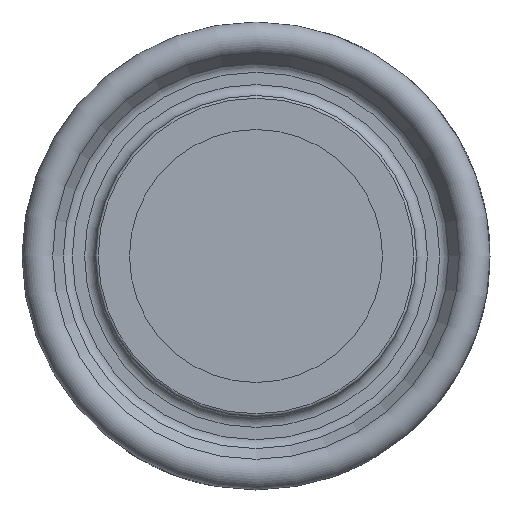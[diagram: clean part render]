
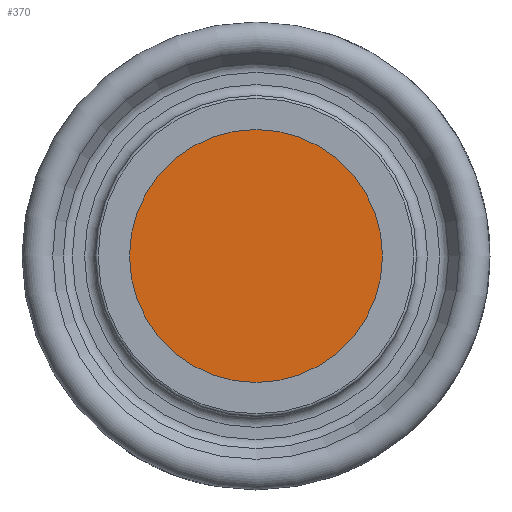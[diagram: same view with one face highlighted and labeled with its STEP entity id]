
A CAD part, left-side view. The second image highlights one B-rep face of the part: STEP entity #370.
In plain terms, the highlighted planar face has unit normal (-1, 0, 0).
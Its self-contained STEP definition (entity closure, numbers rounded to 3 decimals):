
#370 = ADVANCED_FACE( '', ( #891 ), #892, .F. );
#891 = FACE_OUTER_BOUND( '', #2316, .T. );
#892 = PLANE( '', #2317 );
#2316 = EDGE_LOOP( '', ( #4164 ) );
#2317 = AXIS2_PLACEMENT_3D( '', #4165, #4166, #4167 );
#4164 = ORIENTED_EDGE( '', *, *, #5652, .T. );
#4165 = CARTESIAN_POINT( '', ( 0., 0., 0. ) );
#4166 = DIRECTION( '', ( 1., 0., 0. ) );
#4167 = DIRECTION( '', ( 0., 0., -1. ) );
#5652 = EDGE_CURVE( '', #6550, #6550, #6551, .T. );
#6550 = VERTEX_POINT( '', #8085 );
#6551 = CIRCLE( '', #8086, 5.906 );
#8085 = CARTESIAN_POINT( '', ( 0., 0., 5.906 ) );
#8086 = AXIS2_PLACEMENT_3D( '', #9616, #9617, #9618 );
#9616 = CARTESIAN_POINT( '', ( 0., 0., 0. ) );
#9617 = DIRECTION( '', ( -1., 0., 0. ) );
#9618 = DIRECTION( '', ( 0., 0., 1. ) );
